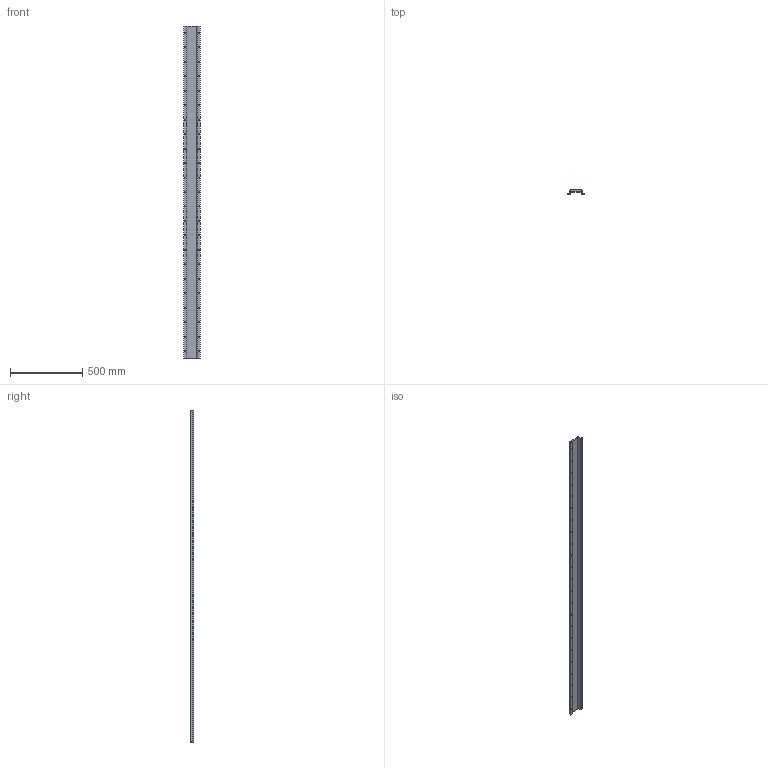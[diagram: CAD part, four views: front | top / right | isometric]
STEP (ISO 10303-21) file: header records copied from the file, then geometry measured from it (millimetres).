
FILE_DESCRIPTION (( 'STEP AP203' ), '1' );
FILE_NAME ('MLF 3_-_MLF 3 2296 mm lang.step', '2005-06-03T09:57:57', ( ' ' ), ( ' ' ), 'SwSTEP 2.0', 'SolidWorks 2004231', '' );
FILE_SCHEMA (( 'CONFIG_CONTROL_DESIGN' ));
Length unit declared in the file: millimetre
Products named in the file (1): MLF 3_-_MLF 3  2296 mm lang
Bounding box: 115 x 25.5 x 2296 mm (x, y, z)
Volume: 2980686.3 mm3; surface area: 809271.2 mm2
Topology: 1 solids, 1 shells, 264 faces, 936 edges, 620 vertices
Faces by surface type: plane 152, cylinder 112
Entity records: 10397 total; most frequent: CARTESIAN_POINT 2373, ORIENTED_EDGE 1872, DIRECTION 1598, EDGE_CURVE 936, VERTEX_POINT 620, AXIS2_PLACEMENT_3D 581, VECTOR 436, LINE 436
